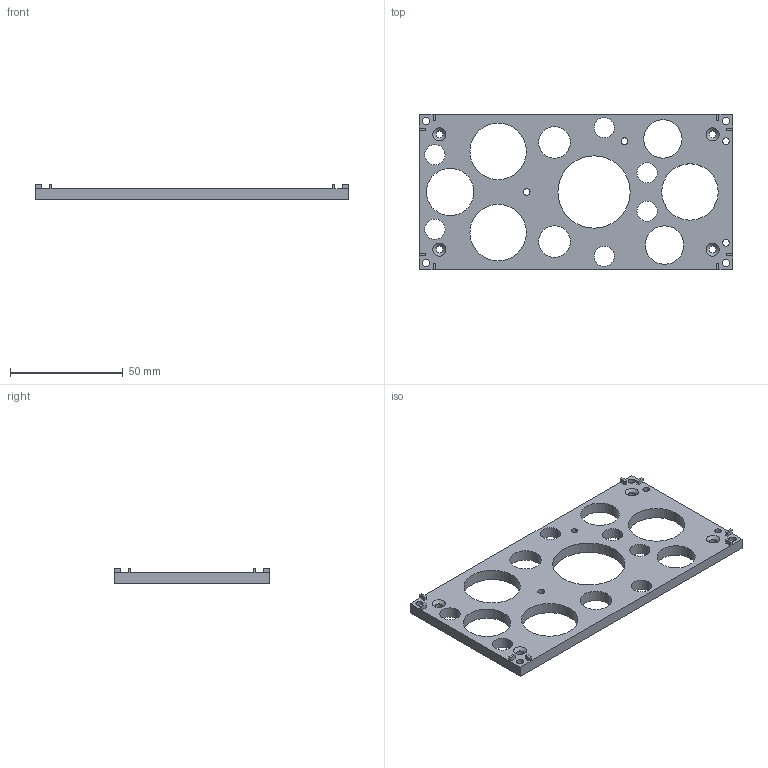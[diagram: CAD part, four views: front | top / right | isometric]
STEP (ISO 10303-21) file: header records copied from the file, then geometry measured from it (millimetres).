
FILE_DESCRIPTION(('FreeCAD Model'),'2;1');
FILE_NAME('Open CASCADE Shape Model','2026-08-19T11:59:47',('Author'),( ''),'Open CASCADE STEP processor 7.8','FreeCAD','Unknown');
FILE_SCHEMA(('AUTOMOTIVE_DESIGN { 1 0 10303 214 1 1 1 1 }'));
Length unit declared in the file: millimetre
Products named in the file (1): Body
Bounding box: 139 x 69 x 7 mm (x, y, z)
Volume: 28643.3 mm3; surface area: 18053.1 mm2
Topology: 1 solids, 1 shells, 73 faces, 205 edges, 134 vertices
Faces by surface type: plane 38, cylinder 27, cone 8
Full cylindrical faces by diameter (mm): 2.95 x4, 3.2 x8, 9 x6, 14 x2, 17 x2, 21 x1, 25 x3, 32 x1
Entity records: 2483 total; most frequent: CARTESIAN_POINT 417, DIRECTION 411, ORIENTED_EDGE 410, EDGE_CURVE 205, LINE 139, VECTOR 139, AXIS2_PLACEMENT_3D 136, VERTEX_POINT 134
